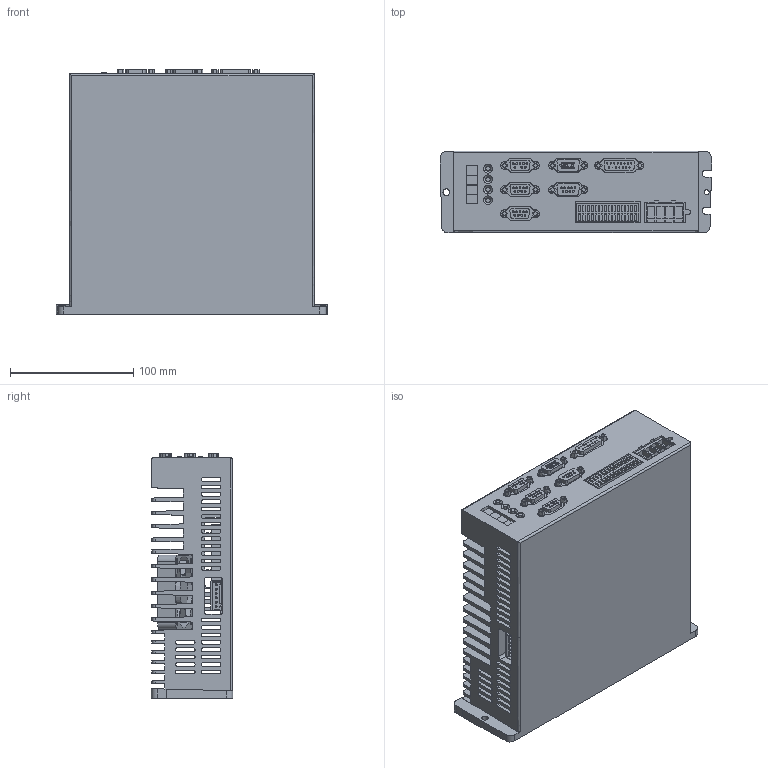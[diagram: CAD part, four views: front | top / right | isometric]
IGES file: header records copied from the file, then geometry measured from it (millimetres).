
Start section:  PTC IGES file: jd430-mold.igs
Global section: file name: jd430-mold.igs; native system: Pro/ENGINEER by Parametric Technology Corporation; preprocessor: 2010100; author: pengsg; organization: Unknown; date: 20131010.155601; units: millimetre
Bounding box: 220.14 x 66 x 198.47 mm (x, y, z)
Volume: 1618364.1 mm3; surface area: 476435.1 mm2
Topology: 22 solids, 22 shells, 1141 faces, 3129 edges, 2082 vertices
Faces by surface type: bspline 715, revolution 424, extrusion 2
